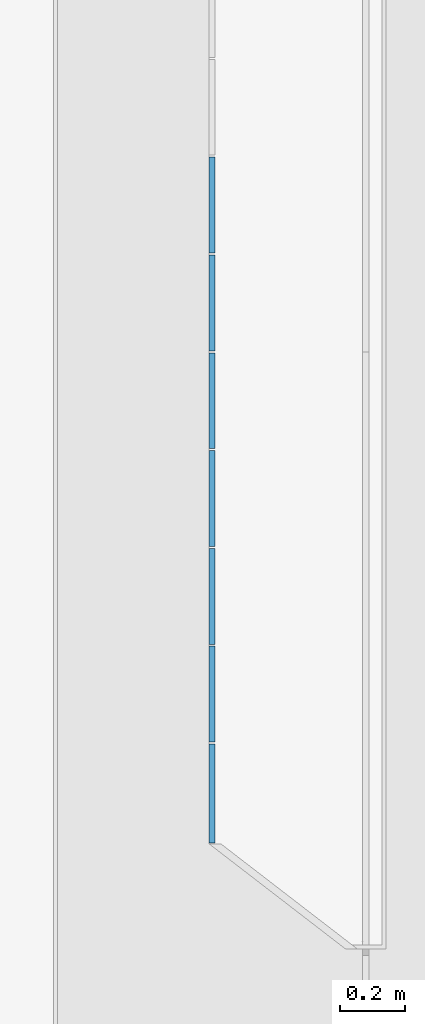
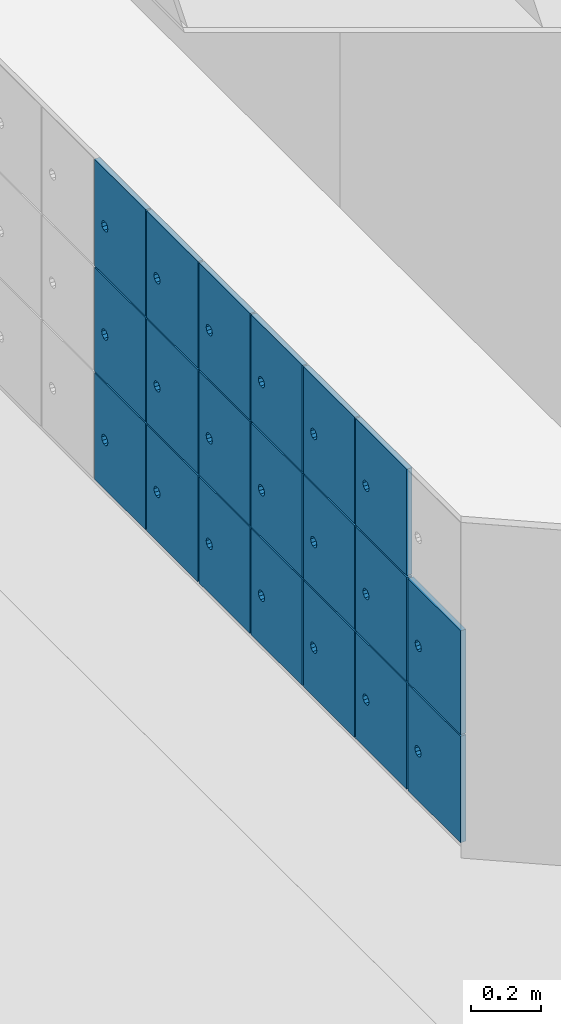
# One storey, part 136 of 347: 20 building element parts, 1 element without a shape of its own.
"""IFC2X3 building model written with IfcOpenShell, lengths in millimetres."""

from ifc_helpers import new_model, entity, si_unit, converted_unit, derived_unit, money_unit, direction, frame, origin_with_axes, place, context, subcontext, project, spatial, faceted_brep, material, type_object, element, aggregate, save


model = new_model("IFC2X3")

# Units and contexts
model_context = context("Model", 3, precision=0.01, world=origin_with_axes(), true_north=direction((0.0, 1.0)))
plan_context = context("Plan", 3, precision=0.01, world=origin_with_axes(), true_north=direction((0.0, 1.0)))
body_context = subcontext(model_context, "Body", "Model", "MODEL_VIEW")
ifc_project = project(units=[si_unit("LENGTHUNIT", "METRE", prefix="MILLI"), si_unit("AREAUNIT", "SQUARE_METRE"), si_unit("VOLUMEUNIT", "CUBIC_METRE"), converted_unit("PLANEANGLEUNIT", "DEGREE", entity("IfcPlaneAngleMeasure", 0.0174532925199), si_unit("PLANEANGLEUNIT", "RADIAN"), dimensions=[0, 0, 0, 0, 0, 0, 0]), money_unit("EUR"), converted_unit("TIMEUNIT", "Year", entity("IfcTimeMeasure", 31556926.0), si_unit("TIMEUNIT", "SECOND"), dimensions=[0, 0, 1, 0, 0, 0, 0]), si_unit("MASSUNIT", "GRAM", prefix="KILO"), si_unit("THERMODYNAMICTEMPERATUREUNIT", "DEGREE_CELSIUS"), si_unit("LUMINOUSINTENSITYUNIT", "LUMEN"), si_unit("ENERGYUNIT", "JOULE", prefix="MEGA"), derived_unit("THERMALCONDUCTANCEUNIT", [(si_unit("POWERUNIT", "WATT"), 1), (si_unit("LENGTHUNIT", "METRE"), -1), (si_unit("THERMODYNAMICTEMPERATUREUNIT", "KELVIN"), -1)]), derived_unit("SPECIFICHEATCAPACITYUNIT", [(si_unit("ENERGYUNIT", "JOULE"), 1), (si_unit("MASSUNIT", "GRAM", prefix="KILO"), -1), (si_unit("THERMODYNAMICTEMPERATUREUNIT", "KELVIN"), -1)]), derived_unit("MASSDENSITYUNIT", [(si_unit("MASSUNIT", "GRAM", prefix="KILO"), 1), (si_unit("VOLUMEUNIT", "CUBIC_METRE"), -1)])], contexts=[model_context, plan_context])

# Site, building, storey
site_placement = place(None, origin_with_axes())
site = spatial("IfcSite", under=ifc_project, at=site_placement, Name="Site", CompositionType="ELEMENT")
building_placement = place(site_placement, origin_with_axes())
building = spatial("IfcBuilding", under=site, at=building_placement, Name="Naam gebouw", CompositionType="ELEMENT")
storey_placement = place(building_placement, origin_with_axes())
storey = spatial("IfcBuildingStorey", under=building, at=storey_placement, Name="begane grond", CompositionType="ELEMENT", Elevation=0.0)

# Beam, building element parts
beam_type = type_object("IfcBeamType", Name="VI Garderobe 01 3012 x 1122", PredefinedType="BEAM")
beam_placement = place(storey_placement, frame((47531.9720234, 24180.5, 0.0), z_axis=(0.0, 0.0, 1.0), x_axis=(0.0, -1.0, 0.0)))
beam = element("IfcBeam", 1, at=beam_placement, inside=storey, type_object=beam_type, Name="28_Balk-x", ObjectType="BEAM")
ifc_material = material(Name="Hout - Lockers")
building_element_part_1_placement = place(beam_placement, origin_with_axes())
building_element_part_1 = element("IfcBuildingElementPart", 2, at=building_element_part_1_placement, material=ifc_material, Name="Hout - Lockers", context=body_context, shape_type="Brep", body=[
    faceted_brep([(2709.0, 18.0, 796.0), (2709.0, 18.0, 432.0), (2709.0, 0.0, 432.0), (2709.0, 0.0, 796.0), (3012.0, 18.0, 796.0), (3012.0, 18.0, 432.0), (2787.0, 18.0, 596.0), (2783.5623059, 18.0, 606.580134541), (2774.5623059, 18.0, 613.119017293), (2763.4376941, 18.0, 613.119017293), (2754.4376941, 18.0, 606.580134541), (2751.0, 18.0, 596.0), (2754.4376941, 18.0, 585.419865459), (2763.4376941, 18.0, 578.880982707), (2774.5623059, 18.0, 578.880982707), (2783.5623059, 18.0, 585.419865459), (3012.0, 0.0, 432.0), (3012.0, 0.0, 796.0), (2787.0, 0.0, 596.0), (2783.5623059, 0.0, 585.419865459), (2774.5623059, 0.0, 578.880982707), (2763.4376941, 0.0, 578.880982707), (2754.4376941, 0.0, 585.419865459), (2751.0, 0.0, 596.0), (2754.4376941, 0.0, 606.580134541), (2763.4376941, 0.0, 613.119017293), (2774.5623059, 0.0, 613.119017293), (2783.5623059, 0.0, 606.580134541)], [[[0, 1, 2, 3]], [[0, 4, 5, 1], [6, 7, 8, 9, 10, 11, 12, 13, 14, 15]], [[1, 5, 16, 2]], [[3, 2, 16, 17], [18, 19, 20, 21, 22, 23, 24, 25, 26, 27]], [[4, 0, 3, 17]], [[5, 4, 17, 16]], [[7, 6, 18, 27]], [[8, 7, 27, 26]], [[9, 8, 26, 25]], [[10, 9, 25, 24]], [[11, 10, 24, 23]], [[12, 11, 23, 22]], [[13, 12, 22, 21]], [[14, 13, 21, 20]], [[15, 14, 20, 19]], [[6, 15, 19, 18]]]),
])
building_element_part_2_placement = place(beam_placement, origin_with_axes())
building_element_part_2 = element("IfcBuildingElementPart", 3, at=building_element_part_2_placement, material=ifc_material, Name="Hout - Lockers", context=body_context, shape_type="Brep", body=[
    faceted_brep([(2709.0, 18.0, 426.0), (2709.0, 18.0, 53.0), (2709.0, 0.0, 53.0), (2709.0, 0.0, 426.0), (3012.0, 18.0, 426.0), (3012.0, 18.0, 53.0), (2785.5992825, 18.0, 226.009810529), (2782.1615884, 18.0, 236.58994507), (2773.1615884, 18.0, 243.128827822), (2762.0369766, 18.0, 243.128827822), (2753.0369766, 18.0, 236.58994507), (2749.5992825, 18.0, 226.009810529), (2753.0369766, 18.0, 215.429675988), (2762.0369766, 18.0, 208.890793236), (2773.1615884, 18.0, 208.890793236), (2782.1615884, 18.0, 215.429675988), (3012.0, 0.0, 53.0), (3012.0, 0.0, 426.0), (2785.5992825, 0.0, 226.009810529), (2782.1615884, 0.0, 215.429675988), (2773.1615884, 0.0, 208.890793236), (2762.0369766, 0.0, 208.890793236), (2753.0369766, 0.0, 215.429675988), (2749.5992825, 0.0, 226.009810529), (2753.0369766, 0.0, 236.58994507), (2762.0369766, 0.0, 243.128827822), (2773.1615884, 0.0, 243.128827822), (2782.1615884, 0.0, 236.58994507)], [[[0, 1, 2, 3]], [[0, 4, 5, 1], [6, 7, 8, 9, 10, 11, 12, 13, 14, 15]], [[1, 5, 16, 2]], [[3, 2, 16, 17], [18, 19, 20, 21, 22, 23, 24, 25, 26, 27]], [[4, 0, 3, 17]], [[5, 4, 17, 16]], [[7, 6, 18, 27]], [[8, 7, 27, 26]], [[9, 8, 26, 25]], [[10, 9, 25, 24]], [[11, 10, 24, 23]], [[12, 11, 23, 22]], [[13, 12, 22, 21]], [[14, 13, 21, 20]], [[15, 14, 20, 19]], [[6, 15, 19, 18]]]),
])
building_element_part_3_placement = place(beam_placement, origin_with_axes())
building_element_part_3 = element("IfcBuildingElementPart", 4, at=building_element_part_3_placement, material=ifc_material, Name="Hout - Lockers", context=body_context, shape_type="Brep", body=[
    faceted_brep([(2109.0, 18.0, 1175.0), (2109.0, 18.0, 802.0), (2109.0, 0.0, 802.0), (2109.0, 0.0, 1175.0), (2403.0, 18.0, 1175.0), (2403.0, 18.0, 802.0), (2187.0, 18.0, 975.0), (2183.5623059, 18.0, 985.580134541), (2174.5623059, 18.0, 992.119017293), (2163.4376941, 18.0, 992.119017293), (2154.4376941, 18.0, 985.580134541), (2151.0, 18.0, 975.0), (2154.4376941, 18.0, 964.419865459), (2163.4376941, 18.0, 957.880982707), (2174.5623059, 18.0, 957.880982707), (2183.5623059, 18.0, 964.419865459), (2403.0, 0.0, 802.0), (2403.0, 0.0, 1175.0), (2187.0, 0.0, 975.0), (2183.5623059, 0.0, 964.419865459), (2174.5623059, 0.0, 957.880982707), (2163.4376941, 0.0, 957.880982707), (2154.4376941, 0.0, 964.419865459), (2151.0, 0.0, 975.0), (2154.4376941, 0.0, 985.580134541), (2163.4376941, 0.0, 992.119017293), (2174.5623059, 0.0, 992.119017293), (2183.5623059, 0.0, 985.580134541)], [[[0, 1, 2, 3]], [[0, 4, 5, 1], [6, 7, 8, 9, 10, 11, 12, 13, 14, 15]], [[1, 5, 16, 2]], [[3, 2, 16, 17], [18, 19, 20, 21, 22, 23, 24, 25, 26, 27]], [[4, 0, 3, 17]], [[5, 4, 17, 16]], [[7, 6, 18, 27]], [[8, 7, 27, 26]], [[9, 8, 26, 25]], [[10, 9, 25, 24]], [[11, 10, 24, 23]], [[12, 11, 23, 22]], [[13, 12, 22, 21]], [[14, 13, 21, 20]], [[15, 14, 20, 19]], [[6, 15, 19, 18]]]),
])
building_element_part_4_placement = place(beam_placement, origin_with_axes())
building_element_part_4 = element("IfcBuildingElementPart", 5, at=building_element_part_4_placement, material=ifc_material, Name="Hout - Lockers", context=body_context, shape_type="Brep", body=[
    faceted_brep([(2109.0, 18.0, 796.0), (2109.0, 18.0, 432.0), (2109.0, 0.0, 432.0), (2109.0, 0.0, 796.0), (2403.0, 18.0, 796.0), (2403.0, 18.0, 432.0), (2187.0, 18.0, 596.0), (2183.5623059, 18.0, 606.580134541), (2174.5623059, 18.0, 613.119017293), (2163.4376941, 18.0, 613.119017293), (2154.4376941, 18.0, 606.580134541), (2151.0, 18.0, 596.0), (2154.4376941, 18.0, 585.419865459), (2163.4376941, 18.0, 578.880982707), (2174.5623059, 18.0, 578.880982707), (2183.5623059, 18.0, 585.419865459), (2403.0, 0.0, 432.0), (2403.0, 0.0, 796.0), (2187.0, 0.0, 596.0), (2183.5623059, 0.0, 585.419865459), (2174.5623059, 0.0, 578.880982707), (2163.4376941, 0.0, 578.880982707), (2154.4376941, 0.0, 585.419865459), (2151.0, 0.0, 596.0), (2154.4376941, 0.0, 606.580134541), (2163.4376941, 0.0, 613.119017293), (2174.5623059, 0.0, 613.119017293), (2183.5623059, 0.0, 606.580134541)], [[[0, 1, 2, 3]], [[0, 4, 5, 1], [6, 7, 8, 9, 10, 11, 12, 13, 14, 15]], [[1, 5, 16, 2]], [[3, 2, 16, 17], [18, 19, 20, 21, 22, 23, 24, 25, 26, 27]], [[4, 0, 3, 17]], [[5, 4, 17, 16]], [[7, 6, 18, 27]], [[8, 7, 27, 26]], [[9, 8, 26, 25]], [[10, 9, 25, 24]], [[11, 10, 24, 23]], [[12, 11, 23, 22]], [[13, 12, 22, 21]], [[14, 13, 21, 20]], [[15, 14, 20, 19]], [[6, 15, 19, 18]]]),
])
building_element_part_5_placement = place(beam_placement, origin_with_axes())
building_element_part_5 = element("IfcBuildingElementPart", 6, at=building_element_part_5_placement, material=ifc_material, Name="Hout - Lockers", context=body_context, shape_type="Brep", body=[
    faceted_brep([(2109.0, 18.0, 426.0), (2109.0, 18.0, 53.0), (2109.0, 0.0, 53.0), (2109.0, 0.0, 426.0), (2403.0, 18.0, 426.0), (2403.0, 18.0, 53.0), (2187.0, 18.0, 226.0), (2183.5623059, 18.0, 236.580134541), (2174.5623059, 18.0, 243.119017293), (2163.4376941, 18.0, 243.119017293), (2154.4376941, 18.0, 236.580134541), (2151.0, 18.0, 226.0), (2154.4376941, 18.0, 215.419865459), (2163.4376941, 18.0, 208.880982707), (2174.5623059, 18.0, 208.880982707), (2183.5623059, 18.0, 215.419865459), (2403.0, 0.0, 53.0), (2403.0, 0.0, 426.0), (2187.0, 0.0, 226.0), (2183.5623059, 0.0, 215.419865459), (2174.5623059, 0.0, 208.880982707), (2163.4376941, 0.0, 208.880982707), (2154.4376941, 0.0, 215.419865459), (2151.0, 0.0, 226.0), (2154.4376941, 0.0, 236.580134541), (2163.4376941, 0.0, 243.119017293), (2174.5623059, 0.0, 243.119017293), (2183.5623059, 0.0, 236.580134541)], [[[0, 1, 2, 3]], [[0, 4, 5, 1], [6, 7, 8, 9, 10, 11, 12, 13, 14, 15]], [[1, 5, 16, 2]], [[3, 2, 16, 17], [18, 19, 20, 21, 22, 23, 24, 25, 26, 27]], [[4, 0, 3, 17]], [[5, 4, 17, 16]], [[7, 6, 18, 27]], [[8, 7, 27, 26]], [[9, 8, 26, 25]], [[10, 9, 25, 24]], [[11, 10, 24, 23]], [[12, 11, 23, 22]], [[13, 12, 22, 21]], [[14, 13, 21, 20]], [[15, 14, 20, 19]], [[6, 15, 19, 18]]]),
])
building_element_part_6_placement = place(beam_placement, origin_with_axes())
building_element_part_6 = element("IfcBuildingElementPart", 7, at=building_element_part_6_placement, material=ifc_material, Name="Hout - Lockers", context=body_context, shape_type="Brep", body=[
    faceted_brep([(1209.0, 18.0, 1175.0), (1209.0, 18.0, 802.0), (1209.0, 0.0, 802.0), (1209.0, 0.0, 1175.0), (1503.0, 18.0, 1175.0), (1503.0, 18.0, 802.0), (1287.0, 18.0, 975.0), (1283.5623059, 18.0, 985.580134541), (1274.5623059, 18.0, 992.119017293), (1263.4376941, 18.0, 992.119017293), (1254.4376941, 18.0, 985.580134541), (1251.0, 18.0, 975.0), (1254.4376941, 18.0, 964.419865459), (1263.4376941, 18.0, 957.880982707), (1274.5623059, 18.0, 957.880982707), (1283.5623059, 18.0, 964.419865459), (1503.0, 0.0, 802.0), (1503.0, 0.0, 1175.0), (1287.0, 0.0, 975.0), (1283.5623059, 0.0, 964.419865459), (1274.5623059, 0.0, 957.880982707), (1263.4376941, 0.0, 957.880982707), (1254.4376941, 0.0, 964.419865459), (1251.0, 0.0, 975.0), (1254.4376941, 0.0, 985.580134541), (1263.4376941, 0.0, 992.119017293), (1274.5623059, 0.0, 992.119017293), (1283.5623059, 0.0, 985.580134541)], [[[0, 1, 2, 3]], [[0, 4, 5, 1], [6, 7, 8, 9, 10, 11, 12, 13, 14, 15]], [[1, 5, 16, 2]], [[3, 2, 16, 17], [18, 19, 20, 21, 22, 23, 24, 25, 26, 27]], [[4, 0, 3, 17]], [[5, 4, 17, 16]], [[7, 6, 18, 27]], [[8, 7, 27, 26]], [[9, 8, 26, 25]], [[10, 9, 25, 24]], [[11, 10, 24, 23]], [[12, 11, 23, 22]], [[13, 12, 22, 21]], [[14, 13, 21, 20]], [[15, 14, 20, 19]], [[6, 15, 19, 18]]]),
])
building_element_part_7_placement = place(beam_placement, origin_with_axes())
building_element_part_7 = element("IfcBuildingElementPart", 8, at=building_element_part_7_placement, material=ifc_material, Name="Hout - Lockers", context=body_context, shape_type="Brep", body=[
    faceted_brep([(1209.0, 18.0, 796.0), (1209.0, 18.0, 432.0), (1209.0, 0.0, 432.0), (1209.0, 0.0, 796.0), (1503.0, 18.0, 796.0), (1503.0, 18.0, 432.0), (1287.0, 18.0, 596.0), (1283.5623059, 18.0, 606.580134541), (1274.5623059, 18.0, 613.119017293), (1263.4376941, 18.0, 613.119017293), (1254.4376941, 18.0, 606.580134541), (1251.0, 18.0, 596.0), (1254.4376941, 18.0, 585.419865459), (1263.4376941, 18.0, 578.880982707), (1274.5623059, 18.0, 578.880982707), (1283.5623059, 18.0, 585.419865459), (1503.0, 0.0, 432.0), (1503.0, 0.0, 796.0), (1287.0, 0.0, 596.0), (1283.5623059, 0.0, 585.419865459), (1274.5623059, 0.0, 578.880982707), (1263.4376941, 0.0, 578.880982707), (1254.4376941, 0.0, 585.419865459), (1251.0, 0.0, 596.0), (1254.4376941, 0.0, 606.580134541), (1263.4376941, 0.0, 613.119017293), (1274.5623059, 0.0, 613.119017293), (1283.5623059, 0.0, 606.580134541)], [[[0, 1, 2, 3]], [[0, 4, 5, 1], [6, 7, 8, 9, 10, 11, 12, 13, 14, 15]], [[1, 5, 16, 2]], [[3, 2, 16, 17], [18, 19, 20, 21, 22, 23, 24, 25, 26, 27]], [[4, 0, 3, 17]], [[5, 4, 17, 16]], [[7, 6, 18, 27]], [[8, 7, 27, 26]], [[9, 8, 26, 25]], [[10, 9, 25, 24]], [[11, 10, 24, 23]], [[12, 11, 23, 22]], [[13, 12, 22, 21]], [[14, 13, 21, 20]], [[15, 14, 20, 19]], [[6, 15, 19, 18]]]),
])
building_element_part_8_placement = place(beam_placement, origin_with_axes())
building_element_part_8 = element("IfcBuildingElementPart", 9, at=building_element_part_8_placement, material=ifc_material, Name="Hout - Lockers", context=body_context, shape_type="Brep", body=[
    faceted_brep([(1209.0, 18.0, 426.0), (1209.0, 18.0, 53.0), (1209.0, 0.0, 53.0), (1209.0, 0.0, 426.0), (1503.0, 18.0, 426.0), (1503.0, 18.0, 53.0), (1287.0, 18.0, 226.0), (1283.5623059, 18.0, 236.580134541), (1274.5623059, 18.0, 243.119017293), (1263.4376941, 18.0, 243.119017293), (1254.4376941, 18.0, 236.580134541), (1251.0, 18.0, 226.0), (1254.4376941, 18.0, 215.419865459), (1263.4376941, 18.0, 208.880982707), (1274.5623059, 18.0, 208.880982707), (1283.5623059, 18.0, 215.419865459), (1503.0, 0.0, 53.0), (1503.0, 0.0, 426.0), (1287.0, 0.0, 226.0), (1283.5623059, 0.0, 215.419865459), (1274.5623059, 0.0, 208.880982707), (1263.4376941, 0.0, 208.880982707), (1254.4376941, 0.0, 215.419865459), (1251.0, 0.0, 226.0), (1254.4376941, 0.0, 236.580134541), (1263.4376941, 0.0, 243.119017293), (1274.5623059, 0.0, 243.119017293), (1283.5623059, 0.0, 236.580134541)], [[[0, 1, 2, 3]], [[0, 4, 5, 1], [6, 7, 8, 9, 10, 11, 12, 13, 14, 15]], [[1, 5, 16, 2]], [[3, 2, 16, 17], [18, 19, 20, 21, 22, 23, 24, 25, 26, 27]], [[4, 0, 3, 17]], [[5, 4, 17, 16]], [[7, 6, 18, 27]], [[8, 7, 27, 26]], [[9, 8, 26, 25]], [[10, 9, 25, 24]], [[11, 10, 24, 23]], [[12, 11, 23, 22]], [[13, 12, 22, 21]], [[14, 13, 21, 20]], [[15, 14, 20, 19]], [[6, 15, 19, 18]]]),
])
building_element_part_9_placement = place(beam_placement, origin_with_axes())
building_element_part_9 = element("IfcBuildingElementPart", 10, at=building_element_part_9_placement, material=ifc_material, Name="Hout - Lockers", context=body_context, shape_type="Brep", body=[
    faceted_brep([(909.0, 18.0, 1175.0), (909.0, 18.0, 802.0), (909.0, 0.0, 802.0), (909.0, 0.0, 1175.0), (1203.0, 18.0, 1175.0), (1203.0, 18.0, 802.0), (987.0, 18.0, 975.0), (983.562305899, 18.0, 985.580134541), (974.562305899, 18.0, 992.119017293), (963.437694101, 18.0, 992.119017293), (954.437694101, 18.0, 985.580134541), (951.0, 18.0, 975.0), (954.437694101, 18.0, 964.419865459), (963.437694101, 18.0, 957.880982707), (974.562305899, 18.0, 957.880982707), (983.562305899, 18.0, 964.419865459), (1203.0, 0.0, 802.0), (1203.0, 0.0, 1175.0), (987.0, 0.0, 975.0), (983.562305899, 0.0, 964.419865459), (974.562305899, 0.0, 957.880982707), (963.437694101, 0.0, 957.880982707), (954.437694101, 0.0, 964.419865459), (951.0, 0.0, 975.0), (954.437694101, 0.0, 985.580134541), (963.437694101, 0.0, 992.119017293), (974.562305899, 0.0, 992.119017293), (983.562305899, 0.0, 985.580134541)], [[[0, 1, 2, 3]], [[0, 4, 5, 1], [6, 7, 8, 9, 10, 11, 12, 13, 14, 15]], [[1, 5, 16, 2]], [[3, 2, 16, 17], [18, 19, 20, 21, 22, 23, 24, 25, 26, 27]], [[4, 0, 3, 17]], [[5, 4, 17, 16]], [[7, 6, 18, 27]], [[8, 7, 27, 26]], [[9, 8, 26, 25]], [[10, 9, 25, 24]], [[11, 10, 24, 23]], [[12, 11, 23, 22]], [[13, 12, 22, 21]], [[14, 13, 21, 20]], [[15, 14, 20, 19]], [[6, 15, 19, 18]]]),
])
building_element_part_10_placement = place(beam_placement, origin_with_axes())
building_element_part_10 = element("IfcBuildingElementPart", 11, at=building_element_part_10_placement, material=ifc_material, Name="Hout - Lockers", context=body_context, shape_type="Brep", body=[
    faceted_brep([(909.0, 18.0, 796.0), (909.0, 18.0, 432.0), (909.0, 0.0, 432.0), (909.0, 0.0, 796.0), (1203.0, 18.0, 796.0), (1203.0, 18.0, 432.0), (987.0, 18.0, 596.0), (983.562305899, 18.0, 606.580134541), (974.562305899, 18.0, 613.119017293), (963.437694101, 18.0, 613.119017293), (954.437694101, 18.0, 606.580134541), (951.0, 18.0, 596.0), (954.437694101, 18.0, 585.419865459), (963.437694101, 18.0, 578.880982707), (974.562305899, 18.0, 578.880982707), (983.562305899, 18.0, 585.419865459), (1203.0, 0.0, 432.0), (1203.0, 0.0, 796.0), (987.0, 0.0, 596.0), (983.562305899, 0.0, 585.419865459), (974.562305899, 0.0, 578.880982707), (963.437694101, 0.0, 578.880982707), (954.437694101, 0.0, 585.419865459), (951.0, 0.0, 596.0), (954.437694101, 0.0, 606.580134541), (963.437694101, 0.0, 613.119017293), (974.562305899, 0.0, 613.119017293), (983.562305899, 0.0, 606.580134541)], [[[0, 1, 2, 3]], [[0, 4, 5, 1], [6, 7, 8, 9, 10, 11, 12, 13, 14, 15]], [[1, 5, 16, 2]], [[3, 2, 16, 17], [18, 19, 20, 21, 22, 23, 24, 25, 26, 27]], [[4, 0, 3, 17]], [[5, 4, 17, 16]], [[7, 6, 18, 27]], [[8, 7, 27, 26]], [[9, 8, 26, 25]], [[10, 9, 25, 24]], [[11, 10, 24, 23]], [[12, 11, 23, 22]], [[13, 12, 22, 21]], [[14, 13, 21, 20]], [[15, 14, 20, 19]], [[6, 15, 19, 18]]]),
])
building_element_part_11_placement = place(beam_placement, origin_with_axes())
building_element_part_11 = element("IfcBuildingElementPart", 12, at=building_element_part_11_placement, material=ifc_material, Name="Hout - Lockers", context=body_context, shape_type="Brep", body=[
    faceted_brep([(909.0, 18.0, 426.0), (909.0, 18.0, 53.0), (909.0, 0.0, 53.0), (909.0, 0.0, 426.0), (1203.0, 18.0, 426.0), (1203.0, 18.0, 53.0), (987.0, 18.0, 226.0), (983.562305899, 18.0, 236.580134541), (974.562305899, 18.0, 243.119017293), (963.437694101, 18.0, 243.119017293), (954.437694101, 18.0, 236.580134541), (951.0, 18.0, 226.0), (954.437694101, 18.0, 215.419865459), (963.437694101, 18.0, 208.880982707), (974.562305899, 18.0, 208.880982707), (983.562305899, 18.0, 215.419865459), (1203.0, 0.0, 53.0), (1203.0, 0.0, 426.0), (987.0, 0.0, 226.0), (983.562305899, 0.0, 215.419865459), (974.562305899, 0.0, 208.880982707), (963.437694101, 0.0, 208.880982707), (954.437694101, 0.0, 215.419865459), (951.0, 0.0, 226.0), (954.437694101, 0.0, 236.580134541), (963.437694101, 0.0, 243.119017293), (974.562305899, 0.0, 243.119017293), (983.562305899, 0.0, 236.580134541)], [[[0, 1, 2, 3]], [[0, 4, 5, 1], [6, 7, 8, 9, 10, 11, 12, 13, 14, 15]], [[1, 5, 16, 2]], [[3, 2, 16, 17], [18, 19, 20, 21, 22, 23, 24, 25, 26, 27]], [[4, 0, 3, 17]], [[5, 4, 17, 16]], [[7, 6, 18, 27]], [[8, 7, 27, 26]], [[9, 8, 26, 25]], [[10, 9, 25, 24]], [[11, 10, 24, 23]], [[12, 11, 23, 22]], [[13, 12, 22, 21]], [[14, 13, 21, 20]], [[15, 14, 20, 19]], [[6, 15, 19, 18]]]),
])
building_element_part_12_placement = place(beam_placement, origin_with_axes())
building_element_part_12 = element("IfcBuildingElementPart", 13, at=building_element_part_12_placement, material=ifc_material, Name="Hout - Lockers", context=body_context, shape_type="Brep", body=[
    faceted_brep([(1809.0, 18.0, 1175.0), (1809.0, 18.0, 802.0), (1809.0, 0.0, 802.0), (1809.0, 0.0, 1175.0), (2103.0, 18.0, 1175.0), (2103.0, 18.0, 802.0), (1887.0, 18.0, 975.0), (1883.5623059, 18.0, 985.580134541), (1874.5623059, 18.0, 992.119017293), (1863.4376941, 18.0, 992.119017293), (1854.4376941, 18.0, 985.580134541), (1851.0, 18.0, 975.0), (1854.4376941, 18.0, 964.419865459), (1863.4376941, 18.0, 957.880982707), (1874.5623059, 18.0, 957.880982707), (1883.5623059, 18.0, 964.419865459), (2103.0, 0.0, 802.0), (2103.0, 0.0, 1175.0), (1887.0, 0.0, 975.0), (1883.5623059, 0.0, 964.419865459), (1874.5623059, 0.0, 957.880982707), (1863.4376941, 0.0, 957.880982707), (1854.4376941, 0.0, 964.419865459), (1851.0, 0.0, 975.0), (1854.4376941, 0.0, 985.580134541), (1863.4376941, 0.0, 992.119017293), (1874.5623059, 0.0, 992.119017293), (1883.5623059, 0.0, 985.580134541)], [[[0, 1, 2, 3]], [[0, 4, 5, 1], [6, 7, 8, 9, 10, 11, 12, 13, 14, 15]], [[1, 5, 16, 2]], [[3, 2, 16, 17], [18, 19, 20, 21, 22, 23, 24, 25, 26, 27]], [[4, 0, 3, 17]], [[5, 4, 17, 16]], [[7, 6, 18, 27]], [[8, 7, 27, 26]], [[9, 8, 26, 25]], [[10, 9, 25, 24]], [[11, 10, 24, 23]], [[12, 11, 23, 22]], [[13, 12, 22, 21]], [[14, 13, 21, 20]], [[15, 14, 20, 19]], [[6, 15, 19, 18]]]),
])
building_element_part_13_placement = place(beam_placement, origin_with_axes())
building_element_part_13 = element("IfcBuildingElementPart", 14, at=building_element_part_13_placement, material=ifc_material, Name="Hout - Lockers", context=body_context, shape_type="Brep", body=[
    faceted_brep([(1809.0, 18.0, 796.0), (1809.0, 18.0, 432.0), (1809.0, 0.0, 432.0), (1809.0, 0.0, 796.0), (2103.0, 18.0, 796.0), (2103.0, 18.0, 432.0), (1887.0, 18.0, 596.0), (1883.5623059, 18.0, 606.580134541), (1874.5623059, 18.0, 613.119017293), (1863.4376941, 18.0, 613.119017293), (1854.4376941, 18.0, 606.580134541), (1851.0, 18.0, 596.0), (1854.4376941, 18.0, 585.419865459), (1863.4376941, 18.0, 578.880982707), (1874.5623059, 18.0, 578.880982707), (1883.5623059, 18.0, 585.419865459), (2103.0, 0.0, 432.0), (2103.0, 0.0, 796.0), (1887.0, 0.0, 596.0), (1883.5623059, 0.0, 585.419865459), (1874.5623059, 0.0, 578.880982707), (1863.4376941, 0.0, 578.880982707), (1854.4376941, 0.0, 585.419865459), (1851.0, 0.0, 596.0), (1854.4376941, 0.0, 606.580134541), (1863.4376941, 0.0, 613.119017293), (1874.5623059, 0.0, 613.119017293), (1883.5623059, 0.0, 606.580134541)], [[[0, 1, 2, 3]], [[0, 4, 5, 1], [6, 7, 8, 9, 10, 11, 12, 13, 14, 15]], [[1, 5, 16, 2]], [[3, 2, 16, 17], [18, 19, 20, 21, 22, 23, 24, 25, 26, 27]], [[4, 0, 3, 17]], [[5, 4, 17, 16]], [[7, 6, 18, 27]], [[8, 7, 27, 26]], [[9, 8, 26, 25]], [[10, 9, 25, 24]], [[11, 10, 24, 23]], [[12, 11, 23, 22]], [[13, 12, 22, 21]], [[14, 13, 21, 20]], [[15, 14, 20, 19]], [[6, 15, 19, 18]]]),
])
building_element_part_14_placement = place(beam_placement, origin_with_axes())
building_element_part_14 = element("IfcBuildingElementPart", 15, at=building_element_part_14_placement, material=ifc_material, Name="Hout - Lockers", context=body_context, shape_type="Brep", body=[
    faceted_brep([(1809.0, 18.0, 426.0), (1809.0, 18.0, 53.0), (1809.0, 0.0, 53.0), (1809.0, 0.0, 426.0), (2103.0, 18.0, 426.0), (2103.0, 18.0, 53.0), (1887.0, 18.0, 226.0), (1883.5623059, 18.0, 236.580134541), (1874.5623059, 18.0, 243.119017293), (1863.4376941, 18.0, 243.119017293), (1854.4376941, 18.0, 236.580134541), (1851.0, 18.0, 226.0), (1854.4376941, 18.0, 215.419865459), (1863.4376941, 18.0, 208.880982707), (1874.5623059, 18.0, 208.880982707), (1883.5623059, 18.0, 215.419865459), (2103.0, 0.0, 53.0), (2103.0, 0.0, 426.0), (1887.0, 0.0, 226.0), (1883.5623059, 0.0, 215.419865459), (1874.5623059, 0.0, 208.880982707), (1863.4376941, 0.0, 208.880982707), (1854.4376941, 0.0, 215.419865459), (1851.0, 0.0, 226.0), (1854.4376941, 0.0, 236.580134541), (1863.4376941, 0.0, 243.119017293), (1874.5623059, 0.0, 243.119017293), (1883.5623059, 0.0, 236.580134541)], [[[0, 1, 2, 3]], [[0, 4, 5, 1], [6, 7, 8, 9, 10, 11, 12, 13, 14, 15]], [[1, 5, 16, 2]], [[3, 2, 16, 17], [18, 19, 20, 21, 22, 23, 24, 25, 26, 27]], [[4, 0, 3, 17]], [[5, 4, 17, 16]], [[7, 6, 18, 27]], [[8, 7, 27, 26]], [[9, 8, 26, 25]], [[10, 9, 25, 24]], [[11, 10, 24, 23]], [[12, 11, 23, 22]], [[13, 12, 22, 21]], [[14, 13, 21, 20]], [[15, 14, 20, 19]], [[6, 15, 19, 18]]]),
])
building_element_part_15_placement = place(beam_placement, origin_with_axes())
building_element_part_15 = element("IfcBuildingElementPart", 16, at=building_element_part_15_placement, material=ifc_material, Name="Hout - Lockers", context=body_context, shape_type="Brep", body=[
    faceted_brep([(1509.0, 18.0, 1175.0), (1509.0, 18.0, 802.0), (1509.0, 0.0, 802.0), (1509.0, 0.0, 1175.0), (1803.0, 18.0, 1175.0), (1803.0, 18.0, 802.0), (1587.0, 18.0, 975.0), (1583.5623059, 18.0, 985.580134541), (1574.5623059, 18.0, 992.119017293), (1563.4376941, 18.0, 992.119017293), (1554.4376941, 18.0, 985.580134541), (1551.0, 18.0, 975.0), (1554.4376941, 18.0, 964.419865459), (1563.4376941, 18.0, 957.880982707), (1574.5623059, 18.0, 957.880982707), (1583.5623059, 18.0, 964.419865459), (1803.0, 0.0, 802.0), (1803.0, 0.0, 1175.0), (1587.0, 0.0, 975.0), (1583.5623059, 0.0, 964.419865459), (1574.5623059, 0.0, 957.880982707), (1563.4376941, 0.0, 957.880982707), (1554.4376941, 0.0, 964.419865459), (1551.0, 0.0, 975.0), (1554.4376941, 0.0, 985.580134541), (1563.4376941, 0.0, 992.119017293), (1574.5623059, 0.0, 992.119017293), (1583.5623059, 0.0, 985.580134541)], [[[0, 1, 2, 3]], [[0, 4, 5, 1], [6, 7, 8, 9, 10, 11, 12, 13, 14, 15]], [[1, 5, 16, 2]], [[3, 2, 16, 17], [18, 19, 20, 21, 22, 23, 24, 25, 26, 27]], [[4, 0, 3, 17]], [[5, 4, 17, 16]], [[7, 6, 18, 27]], [[8, 7, 27, 26]], [[9, 8, 26, 25]], [[10, 9, 25, 24]], [[11, 10, 24, 23]], [[12, 11, 23, 22]], [[13, 12, 22, 21]], [[14, 13, 21, 20]], [[15, 14, 20, 19]], [[6, 15, 19, 18]]]),
])
building_element_part_16_placement = place(beam_placement, origin_with_axes())
building_element_part_16 = element("IfcBuildingElementPart", 17, at=building_element_part_16_placement, material=ifc_material, Name="Hout - Lockers", context=body_context, shape_type="Brep", body=[
    faceted_brep([(1509.0, 18.0, 796.0), (1509.0, 18.0, 432.0), (1509.0, 0.0, 432.0), (1509.0, 0.0, 796.0), (1803.0, 18.0, 796.0), (1803.0, 18.0, 432.0), (1587.0, 18.0, 596.0), (1583.5623059, 18.0, 606.580134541), (1574.5623059, 18.0, 613.119017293), (1563.4376941, 18.0, 613.119017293), (1554.4376941, 18.0, 606.580134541), (1551.0, 18.0, 596.0), (1554.4376941, 18.0, 585.419865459), (1563.4376941, 18.0, 578.880982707), (1574.5623059, 18.0, 578.880982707), (1583.5623059, 18.0, 585.419865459), (1803.0, 0.0, 432.0), (1803.0, 0.0, 796.0), (1587.0, 0.0, 596.0), (1583.5623059, 0.0, 585.419865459), (1574.5623059, 0.0, 578.880982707), (1563.4376941, 0.0, 578.880982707), (1554.4376941, 0.0, 585.419865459), (1551.0, 0.0, 596.0), (1554.4376941, 0.0, 606.580134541), (1563.4376941, 0.0, 613.119017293), (1574.5623059, 0.0, 613.119017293), (1583.5623059, 0.0, 606.580134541)], [[[0, 1, 2, 3]], [[0, 4, 5, 1], [6, 7, 8, 9, 10, 11, 12, 13, 14, 15]], [[1, 5, 16, 2]], [[3, 2, 16, 17], [18, 19, 20, 21, 22, 23, 24, 25, 26, 27]], [[4, 0, 3, 17]], [[5, 4, 17, 16]], [[7, 6, 18, 27]], [[8, 7, 27, 26]], [[9, 8, 26, 25]], [[10, 9, 25, 24]], [[11, 10, 24, 23]], [[12, 11, 23, 22]], [[13, 12, 22, 21]], [[14, 13, 21, 20]], [[15, 14, 20, 19]], [[6, 15, 19, 18]]]),
])
building_element_part_17_placement = place(beam_placement, origin_with_axes())
building_element_part_17 = element("IfcBuildingElementPart", 18, at=building_element_part_17_placement, material=ifc_material, Name="Hout - Lockers", context=body_context, shape_type="Brep", body=[
    faceted_brep([(1509.0, 18.0, 426.0), (1509.0, 18.0, 53.0), (1509.0, 0.0, 53.0), (1509.0, 0.0, 426.0), (1803.0, 18.0, 426.0), (1803.0, 18.0, 53.0), (1587.0, 18.0, 226.0), (1583.5623059, 18.0, 236.580134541), (1574.5623059, 18.0, 243.119017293), (1563.4376941, 18.0, 243.119017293), (1554.4376941, 18.0, 236.580134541), (1551.0, 18.0, 226.0), (1554.4376941, 18.0, 215.419865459), (1563.4376941, 18.0, 208.880982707), (1574.5623059, 18.0, 208.880982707), (1583.5623059, 18.0, 215.419865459), (1803.0, 0.0, 53.0), (1803.0, 0.0, 426.0), (1587.0, 0.0, 226.0), (1583.5623059, 0.0, 215.419865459), (1574.5623059, 0.0, 208.880982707), (1563.4376941, 0.0, 208.880982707), (1554.4376941, 0.0, 215.419865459), (1551.0, 0.0, 226.0), (1554.4376941, 0.0, 236.580134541), (1563.4376941, 0.0, 243.119017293), (1574.5623059, 0.0, 243.119017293), (1583.5623059, 0.0, 236.580134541)], [[[0, 1, 2, 3]], [[0, 4, 5, 1], [6, 7, 8, 9, 10, 11, 12, 13, 14, 15]], [[1, 5, 16, 2]], [[3, 2, 16, 17], [18, 19, 20, 21, 22, 23, 24, 25, 26, 27]], [[4, 0, 3, 17]], [[5, 4, 17, 16]], [[7, 6, 18, 27]], [[8, 7, 27, 26]], [[9, 8, 26, 25]], [[10, 9, 25, 24]], [[11, 10, 24, 23]], [[12, 11, 23, 22]], [[13, 12, 22, 21]], [[14, 13, 21, 20]], [[15, 14, 20, 19]], [[6, 15, 19, 18]]]),
])
building_element_part_18_placement = place(beam_placement, origin_with_axes())
building_element_part_18 = element("IfcBuildingElementPart", 19, at=building_element_part_18_placement, material=ifc_material, Name="Hout - Lockers", context=body_context, shape_type="Brep", body=[
    faceted_brep([(2409.0, 18.0, 1175.0), (2409.0, 18.0, 802.0), (2409.0, 0.0, 802.0), (2409.0, 0.0, 1175.0), (2703.0, 18.0, 1175.0), (2703.0, 18.0, 802.0), (2487.0, 18.0, 975.0), (2483.5623059, 18.0, 985.580134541), (2474.5623059, 18.0, 992.119017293), (2463.4376941, 18.0, 992.119017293), (2454.4376941, 18.0, 985.580134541), (2451.0, 18.0, 975.0), (2454.4376941, 18.0, 964.419865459), (2463.4376941, 18.0, 957.880982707), (2474.5623059, 18.0, 957.880982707), (2483.5623059, 18.0, 964.419865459), (2703.0, 0.0, 802.0), (2703.0, 0.0, 1175.0), (2487.0, 0.0, 975.0), (2483.5623059, 0.0, 964.419865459), (2474.5623059, 0.0, 957.880982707), (2463.4376941, 0.0, 957.880982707), (2454.4376941, 0.0, 964.419865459), (2451.0, 0.0, 975.0), (2454.4376941, 0.0, 985.580134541), (2463.4376941, 0.0, 992.119017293), (2474.5623059, 0.0, 992.119017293), (2483.5623059, 0.0, 985.580134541)], [[[0, 1, 2, 3]], [[0, 4, 5, 1], [6, 7, 8, 9, 10, 11, 12, 13, 14, 15]], [[1, 5, 16, 2]], [[3, 2, 16, 17], [18, 19, 20, 21, 22, 23, 24, 25, 26, 27]], [[4, 0, 3, 17]], [[5, 4, 17, 16]], [[7, 6, 18, 27]], [[8, 7, 27, 26]], [[9, 8, 26, 25]], [[10, 9, 25, 24]], [[11, 10, 24, 23]], [[12, 11, 23, 22]], [[13, 12, 22, 21]], [[14, 13, 21, 20]], [[15, 14, 20, 19]], [[6, 15, 19, 18]]]),
])
building_element_part_19_placement = place(beam_placement, origin_with_axes())
building_element_part_19 = element("IfcBuildingElementPart", 20, at=building_element_part_19_placement, material=ifc_material, Name="Hout - Lockers", context=body_context, shape_type="Brep", body=[
    faceted_brep([(2409.0, 18.0, 796.0), (2409.0, 18.0, 432.0), (2409.0, 0.0, 432.0), (2409.0, 0.0, 796.0), (2703.0, 18.0, 796.0), (2703.0, 18.0, 432.0), (2487.0, 18.0, 596.0), (2483.5623059, 18.0, 606.580134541), (2474.5623059, 18.0, 613.119017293), (2463.4376941, 18.0, 613.119017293), (2454.4376941, 18.0, 606.580134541), (2451.0, 18.0, 596.0), (2454.4376941, 18.0, 585.419865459), (2463.4376941, 18.0, 578.880982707), (2474.5623059, 18.0, 578.880982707), (2483.5623059, 18.0, 585.419865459), (2703.0, 0.0, 432.0), (2703.0, 0.0, 796.0), (2487.0, 0.0, 596.0), (2483.5623059, 0.0, 585.419865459), (2474.5623059, 0.0, 578.880982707), (2463.4376941, 0.0, 578.880982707), (2454.4376941, 0.0, 585.419865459), (2451.0, 0.0, 596.0), (2454.4376941, 0.0, 606.580134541), (2463.4376941, 0.0, 613.119017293), (2474.5623059, 0.0, 613.119017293), (2483.5623059, 0.0, 606.580134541)], [[[0, 1, 2, 3]], [[0, 4, 5, 1], [6, 7, 8, 9, 10, 11, 12, 13, 14, 15]], [[1, 5, 16, 2]], [[3, 2, 16, 17], [18, 19, 20, 21, 22, 23, 24, 25, 26, 27]], [[4, 0, 3, 17]], [[5, 4, 17, 16]], [[7, 6, 18, 27]], [[8, 7, 27, 26]], [[9, 8, 26, 25]], [[10, 9, 25, 24]], [[11, 10, 24, 23]], [[12, 11, 23, 22]], [[13, 12, 22, 21]], [[14, 13, 21, 20]], [[15, 14, 20, 19]], [[6, 15, 19, 18]]]),
])
building_element_part_20_placement = place(beam_placement, origin_with_axes())
building_element_part_20 = element("IfcBuildingElementPart", 21, at=building_element_part_20_placement, material=ifc_material, Name="Hout - Lockers", context=body_context, shape_type="Brep", body=[
    faceted_brep([(2409.0, 18.0, 426.0), (2409.0, 18.0, 53.0), (2409.0, 0.0, 53.0), (2409.0, 0.0, 426.0), (2703.0, 18.0, 426.0), (2703.0, 18.0, 53.0), (2487.0, 18.0, 226.0), (2483.5623059, 18.0, 236.580134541), (2474.5623059, 18.0, 243.119017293), (2463.4376941, 18.0, 243.119017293), (2454.4376941, 18.0, 236.580134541), (2451.0, 18.0, 226.0), (2454.4376941, 18.0, 215.419865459), (2463.4376941, 18.0, 208.880982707), (2474.5623059, 18.0, 208.880982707), (2483.5623059, 18.0, 215.419865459), (2703.0, 0.0, 53.0), (2703.0, 0.0, 426.0), (2487.0, 0.0, 226.0), (2483.5623059, 0.0, 215.419865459), (2474.5623059, 0.0, 208.880982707), (2463.4376941, 0.0, 208.880982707), (2454.4376941, 0.0, 215.419865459), (2451.0, 0.0, 226.0), (2454.4376941, 0.0, 236.580134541), (2463.4376941, 0.0, 243.119017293), (2474.5623059, 0.0, 243.119017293), (2483.5623059, 0.0, 236.580134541)], [[[0, 1, 2, 3]], [[0, 4, 5, 1], [6, 7, 8, 9, 10, 11, 12, 13, 14, 15]], [[1, 5, 16, 2]], [[3, 2, 16, 17], [18, 19, 20, 21, 22, 23, 24, 25, 26, 27]], [[4, 0, 3, 17]], [[5, 4, 17, 16]], [[7, 6, 18, 27]], [[8, 7, 27, 26]], [[9, 8, 26, 25]], [[10, 9, 25, 24]], [[11, 10, 24, 23]], [[12, 11, 23, 22]], [[13, 12, 22, 21]], [[14, 13, 21, 20]], [[15, 14, 20, 19]], [[6, 15, 19, 18]]]),
])
aggregate(beam, [building_element_part_1, building_element_part_2, building_element_part_3, building_element_part_4, building_element_part_5, building_element_part_6, building_element_part_7, building_element_part_8, building_element_part_9, building_element_part_10, building_element_part_11, building_element_part_12, building_element_part_13, building_element_part_14, building_element_part_15, building_element_part_16, building_element_part_17, building_element_part_18, building_element_part_19, building_element_part_20])

save(model, "model.ifc")
